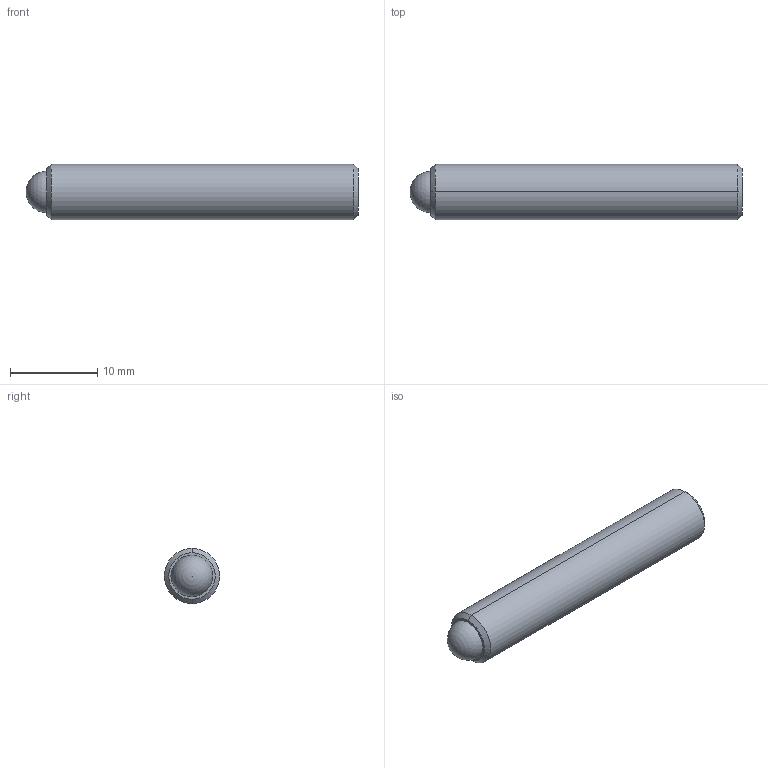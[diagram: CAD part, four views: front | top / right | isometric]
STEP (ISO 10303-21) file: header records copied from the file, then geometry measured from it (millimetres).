
FILE_DESCRIPTION (( 'STEP AP214' ), '1' );
FILE_NAME ('TS250-80-1500-AA-HV.STEP', '2013-05-10T14:40:58', ( 'workpc' ), ( 'Microsoft' ), 'SwSTEP 2.0', 'SolidWorks 2013', '' );
FILE_SCHEMA (( 'AUTOMOTIVE_DESIGN' ));
Length unit declared in the file: inch
Products named in the file (1): TS250-80-1500-AA-HV
Bounding box: 38.1 x 6.35 x 6.35 mm (x, y, z)
Volume: 1132.6 mm3; surface area: 886.1 mm2
Topology: 2 solids, 2 shells, 24 faces, 57 edges, 37 vertices
Faces by surface type: plane 10, cylinder 8, cone 4, sphere 2
Entity records: 739 total; most frequent: DIRECTION 124, CARTESIAN_POINT 111, ORIENTED_EDGE 104, EDGE_CURVE 52, AXIS2_PLACEMENT_3D 47, VERTEX_POINT 34, VECTOR 30, LINE 30
